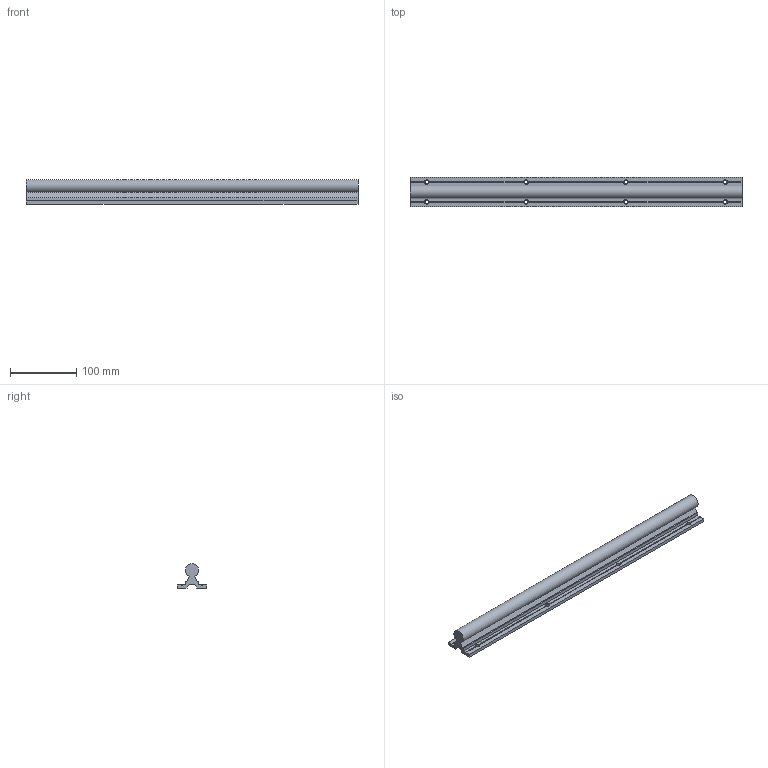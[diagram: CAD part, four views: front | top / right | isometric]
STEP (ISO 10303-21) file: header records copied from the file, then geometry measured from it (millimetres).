
FILE_DESCRIPTION(/* description */ (''),/* implementation_level */ '2;1');
FILE_NAME(/* name */ 'C:\Users\David\Desktop\stepFiles\Profilfuehrung\LFS20x500.stp',/* time_stamp */ '2018-06-24T15:21:53+02:00',/* author */ ('Buskamp'),/* organization */ (''),/* preprocessor_version */ 'ST-DEVELOPER v17',/* originating_system */ 'Autodesk Inventor 2019',/* authorisation */ '');
FILE_SCHEMA (('AUTOMOTIVE_DESIGN { 1 0 10303 214 3 1 1 }'));
Length unit declared in the file: millimetre
Products named in the file (1): Linearführung D20xvariabel
Bounding box: 500 x 45 x 37 mm (x, y, z)
Volume: 322889.9 mm3; surface area: 89596.9 mm2
Topology: 1 solids, 1 shells, 74 faces, 216 edges, 136 vertices
Faces by surface type: plane 49, cone 16, cylinder 9
Full cylindrical faces by diameter (mm): 5.5 x8
Entity records: 2481 total; most frequent: CARTESIAN_POINT 491, ORIENTED_EDGE 432, DIRECTION 408, EDGE_CURVE 216, AXIS2_PLACEMENT_3D 149, VERTEX_POINT 136, LINE 110, VECTOR 110
